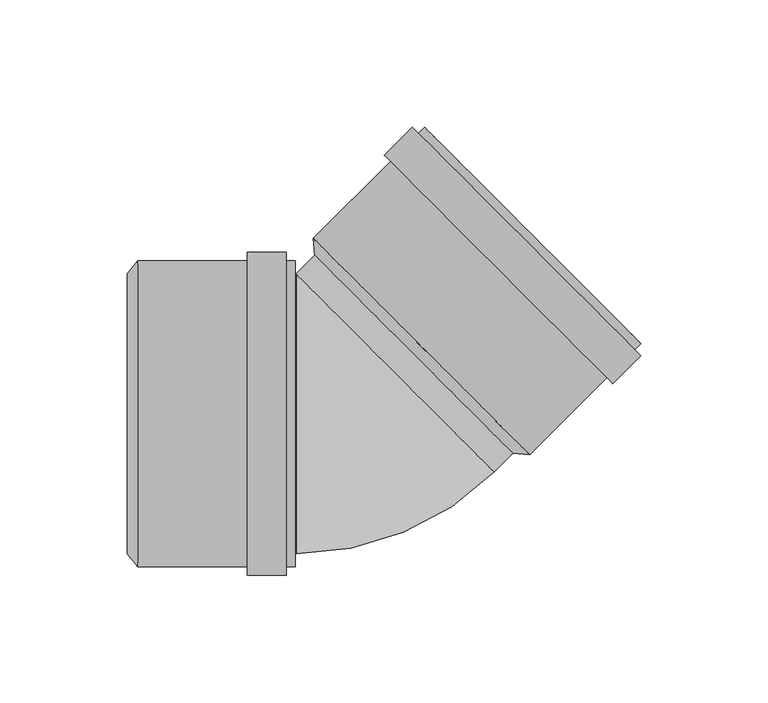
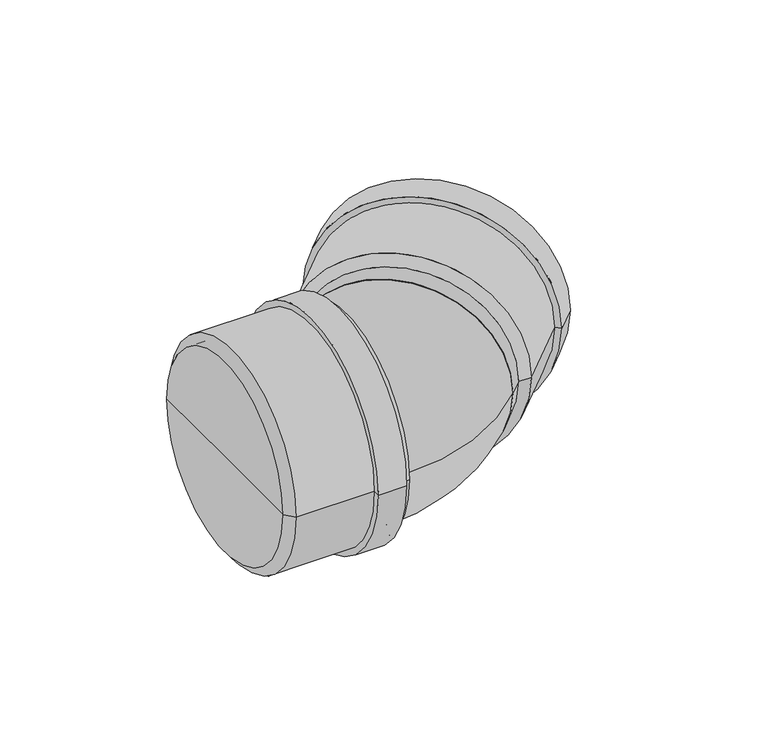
"""IFC4 building model written with IfcOpenShell, lengths in millimetres: pipe fitting geometry, pf_KGB : pf_KGB."""

from ifc_helpers import new_model, si_unit, point, frame, origin, origin_2d, place, context, project, spatial, polyline, circle_curve, ellipse_curve, trimmed, segment, composite_curve, outline, extrude, source, transform, mapped, element, save
from ifc_brep_helpers import plane_surface, cylinder_surface, revolved_surface, advanced_brep


def pipe_fitting_20eff91d(model_context):
    return source(origin(), model_context, "Body", "SolidModel", [
        advanced_brep(
        [(62.3668181, -15.4149278, 0.0), (-15.4149278, 62.3668181, 0.0), (-16.0513239, 68.9429112, 0.0), (68.9429112, -16.0513239, 0.0), (23.4759451, 23.4759451, 0.0), (112.6421102, 27.6478751, 0.0), (27.6478751, 112.6421102, 0.0), (31.2541197, 109.0358657, 0.0), (109.0358657, 31.2541197, 0.0), (25.2437121, 110.2379472, 0.0), (110.2379472, 25.2437121, 0.0), (22.839549, 112.6421102, 0.0), (112.6421102, 22.839549, 0.0), (11.8793939, 101.6819551, 0.0), (101.6819551, 11.8793939, 0.0), (14.283557, 99.2777921, 0.0), (99.2777921, 14.283557, 0.0), (65.3366666, -12.4450793, 0.0), (-12.4450793, 65.3366666, 0.0), (26.4457936, 26.4457936, 0.0)],
        [
            (0, 1, circle_curve(frame((23.4759451, 23.4759451, 0.0), z_axis=(0.7071067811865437, 0.7071067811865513, 0.0), x_axis=(-0.7071067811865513, 0.7071067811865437, 0.0)), 55.0)),
            (1, 2),
            (2, 3, circle_curve(frame((26.4457936, 26.4457936, 0.0), z_axis=(-0.7071067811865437, -0.7071067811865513, 0.0), x_axis=(-0.7071067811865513, 0.7071067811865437, 0.0)), 60.1)),
            (3, 0),
            (1, 0, circle_curve(frame((23.4759451, 23.4759451, 0.0), z_axis=(0.7071067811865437, 0.7071067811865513, 0.0), x_axis=(-0.7071067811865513, 0.7071067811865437, 0.0)), 55.0)),
            (3, 2, circle_curve(frame((26.4457936, 26.4457936, 0.0), z_axis=(-0.7071067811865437, -0.7071067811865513, 0.0), x_axis=(-0.7071067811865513, 0.7071067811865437, 0.0)), 60.1)),
            (4, 1),
            (0, 4),
            (5, 6, circle_curve(frame((70.1449927, 70.1449927, 0.0), z_axis=(0.7071067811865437, 0.7071067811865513, 0.0), x_axis=(-0.7071067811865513, 0.7071067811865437, 0.0)), 60.1)),
            (6, 7),
            (7, 8, circle_curve(frame((70.1449927, 70.1449927, 0.0), z_axis=(-0.7071067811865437, -0.7071067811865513, 0.0), x_axis=(-0.7071067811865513, 0.7071067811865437, 0.0)), 55.0)),
            (8, 5),
            (9, 10, circle_curve(frame((67.7408296, 67.7408296, 0.0), z_axis=(0.7071067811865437, 0.7071067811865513, 0.0), x_axis=(-0.7071067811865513, 0.7071067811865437, 0.0)), 60.1)),
            (10, 5),
            (5, 6, circle_curve(frame((70.1449927, 70.1449927, 0.0), z_axis=(-0.7071067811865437, -0.7071067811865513, 0.0), x_axis=(-0.7071067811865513, 0.7071067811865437, 0.0)), 60.1)),
            (6, 9),
            (11, 12, circle_curve(frame((67.7408296, 67.7408296, 0.0), z_axis=(0.7071067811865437, 0.7071067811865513, 0.0), x_axis=(-0.7071067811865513, 0.7071067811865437, 0.0)), 63.5)),
            (12, 10),
            (9, 11),
            (13, 14, circle_curve(frame((56.7806745, 56.7806745, 0.0), z_axis=(0.7071067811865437, 0.7071067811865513, 0.0), x_axis=(-0.7071067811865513, 0.7071067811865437, 0.0)), 63.5)),
            (14, 12),
            (11, 13),
            (15, 16, circle_curve(frame((56.7806745, 56.7806745, 0.0), z_axis=(0.7071067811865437, 0.7071067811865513, 0.0), x_axis=(-0.7071067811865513, 0.7071067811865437, 0.0)), 60.1)),
            (16, 14),
            (13, 15),
            (8, 7, circle_curve(frame((70.1449927, 70.1449927, 0.0), z_axis=(-0.7071067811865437, -0.7071067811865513, 0.0), x_axis=(-0.7071067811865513, 0.7071067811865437, 0.0)), 55.0)),
            (10, 9, circle_curve(frame((67.7408296, 67.7408296, 0.0), z_axis=(0.7071067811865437, 0.7071067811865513, 0.0), x_axis=(-0.7071067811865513, 0.7071067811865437, 0.0)), 60.1)),
            (12, 11, circle_curve(frame((67.7408296, 67.7408296, 0.0), z_axis=(0.7071067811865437, 0.7071067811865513, 0.0), x_axis=(-0.7071067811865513, 0.7071067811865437, 0.0)), 63.5)),
            (14, 13, circle_curve(frame((56.7806745, 56.7806745, 0.0), z_axis=(0.7071067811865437, 0.7071067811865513, 0.0), x_axis=(-0.7071067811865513, 0.7071067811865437, 0.0)), 63.5)),
            (16, 15, circle_curve(frame((56.7806745, 56.7806745, 0.0), z_axis=(0.7071067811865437, 0.7071067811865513, 0.0), x_axis=(-0.7071067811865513, 0.7071067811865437, 0.0)), 60.1)),
            (2, 15),
            (16, 3),
            (17, 18, circle_curve(frame((26.4457936, 26.4457936, 0.0), z_axis=(0.7071067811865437, 0.7071067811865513, 0.0), x_axis=(-0.7071067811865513, 0.7071067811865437, 0.0)), 55.0)),
            (18, 19),
            (19, 17),
            (18, 17, circle_curve(frame((26.4457936, 26.4457936, 0.0), z_axis=(0.7071067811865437, 0.7071067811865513, 0.0), x_axis=(-0.7071067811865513, 0.7071067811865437, 0.0)), 55.0)),
            (7, 18),
            (17, 8),
        ],
        [
            revolved_surface(polyline([(-16.0513239, 68.9429112, 0.0), (-15.4149278, 62.3668181, 0.0)]), (23.4759451, 23.4759451, 0.0), (-0.7071067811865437, -0.7071067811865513, 0.0)),
            plane_surface(frame((23.4759451, 23.4759451, 0.0), z_axis=(-0.7071067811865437, -0.7071067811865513, 0.0), x_axis=(-0.7071067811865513, 0.7071067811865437, 0.0))),
            plane_surface(frame((70.1449927, 70.1449927, 0.0), z_axis=(0.7071067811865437, 0.7071067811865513, 0.0), x_axis=(-0.7071067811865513, 0.7071067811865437, 0.0))),
            cylinder_surface(frame((23.4759451, 23.4759451, 0.0), z_axis=(-0.7071067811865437, -0.7071067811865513, 0.0), x_axis=(-0.7071067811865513, 0.7071067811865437, 0.0)), 60.1),
            plane_surface(frame((67.7408296, 67.7408296, 0.0), z_axis=(0.7071067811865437, 0.7071067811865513, 0.0), x_axis=(-0.7071067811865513, 0.7071067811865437, 0.0))),
            cylinder_surface(frame((23.4759451, 23.4759451, 0.0), z_axis=(-0.7071067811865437, -0.7071067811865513, 0.0), x_axis=(-0.7071067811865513, 0.7071067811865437, 0.0)), 63.5),
            plane_surface(frame((56.7806745, 56.7806745, 0.0), z_axis=(-0.7071067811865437, -0.7071067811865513, 0.0), x_axis=(-0.7071067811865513, 0.7071067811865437, 0.0))),
            plane_surface(frame((26.4457936, 26.4457936, 0.0), z_axis=(0.7071067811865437, 0.7071067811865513, 0.0), x_axis=(-0.7071067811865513, 0.7071067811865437, 0.0))),
            revolved_surface(polyline([(-12.445079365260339, 65.33666656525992, 0.0), (31.254119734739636, 109.03586566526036, 0.0)]), (23.4759451, 23.4759451, 0.0), (-0.7071067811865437, -0.7071067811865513, 0.0)),
        ],
        [
            (0, [[1, 2, 3, 4]]),
            (0, [[5, -4, 6, -2]]),
            (1, [[7, -1, 8]]),
            (1, [[-8, -5, -7]]),
            (2, [[9, 10, 11, 12]]),
            (3, [[13, 14, 15, 16]]),
            (4, [[17, 18, -13, 19]]),
            (5, [[20, 21, -17, 22]]),
            (6, [[23, 24, -20, 25]]),
            (2, [[-15, -12, 26, -10]]),
            (3, [[27, -16, -9, -14]]),
            (4, [[28, -19, -27, -18]]),
            (5, [[29, -22, -28, -21]]),
            (6, [[30, -25, -29, -24]]),
            (3, [[-3, 31, -30, 32]]),
            (3, [[-6, -32, -23, -31]]),
            (7, [[33, 34, 35]]),
            (7, [[36, -35, -34]]),
            (8, [[-11, 37, -33, 38]]),
            (8, [[-26, -38, -36, -37]]),
        ],
    ),
        advanced_brep(
        [(-89.2, -55.0, 0.0), (-89.2, 55.0, 0.0), (-85.0, 60.1, 0.0), (-85.0, -60.1, 0.0), (-89.2, 0.0, 0.0), (-23.2, -60.1, 0.0), (-23.2, 60.1, 0.0), (-23.2, 55.0, 0.0), (-23.2, -55.0, 0.0), (-26.6, 60.1, 0.0), (-26.6, -60.1, 0.0), (-26.6, 63.5, 0.0), (-26.6, -63.5, 0.0), (-42.1, 63.5, 0.0), (-42.1, -63.5, 0.0), (-42.1, 60.1, 0.0), (-42.1, -60.1, 0.0), (-85.0, -55.0, 0.0), (-85.0, 55.0, 0.0), (-85.0, 0.0, 0.0)],
        [
            (0, 1, circle_curve(frame((-89.2, 0.0, 0.0), z_axis=(1.0, 0.0, 0.0), x_axis=(0.0, 1.0, 0.0)), 55.0)),
            (1, 2),
            (2, 3, circle_curve(frame((-85.0, 0.0, 0.0), z_axis=(-1.0, 0.0, 0.0), x_axis=(0.0, 1.0, 0.0)), 60.1)),
            (3, 0),
            (1, 0, circle_curve(frame((-89.2, 0.0, 0.0), z_axis=(1.0, 0.0, 0.0), x_axis=(0.0, 1.0, 0.0)), 55.0)),
            (3, 2, circle_curve(frame((-85.0, 0.0, 0.0), z_axis=(-1.0, 0.0, 0.0), x_axis=(0.0, 1.0, 0.0)), 60.1)),
            (4, 1),
            (0, 4),
            (5, 6, circle_curve(frame((-23.2, 0.0, 0.0), z_axis=(1.0, 0.0, 0.0), x_axis=(0.0, 1.0, 0.0)), 60.1)),
            (6, 7),
            (7, 8, circle_curve(frame((-23.2, 0.0, 0.0), z_axis=(-1.0, 0.0, 0.0), x_axis=(0.0, 1.0, 0.0)), 55.0)),
            (8, 5),
            (9, 10, circle_curve(frame((-26.6, 0.0, 0.0), z_axis=(1.0, 0.0, 0.0), x_axis=(0.0, 1.0, 0.0)), 60.1)),
            (10, 5),
            (5, 6, circle_curve(frame((-23.2, 0.0, 0.0), z_axis=(-1.0, 0.0, 0.0), x_axis=(0.0, 1.0, 0.0)), 60.1)),
            (6, 9),
            (11, 12, circle_curve(frame((-26.6, 0.0, 0.0), z_axis=(1.0, 0.0, 0.0), x_axis=(0.0, 1.0, 0.0)), 63.5)),
            (12, 10),
            (9, 11),
            (13, 14, circle_curve(frame((-42.1, 0.0, 0.0), z_axis=(1.0, 0.0, 0.0), x_axis=(0.0, 1.0, 0.0)), 63.5)),
            (14, 12),
            (11, 13),
            (15, 16, circle_curve(frame((-42.1, 0.0, 0.0), z_axis=(1.0, 0.0, 0.0), x_axis=(0.0, 1.0, 0.0)), 60.1)),
            (16, 14),
            (13, 15),
            (8, 7, circle_curve(frame((-23.2, 0.0, 0.0), z_axis=(-1.0, 0.0, 0.0), x_axis=(0.0, 1.0, 0.0)), 55.0)),
            (10, 9, circle_curve(frame((-26.6, 0.0, 0.0), z_axis=(1.0, 0.0, 0.0), x_axis=(0.0, 1.0, 0.0)), 60.1)),
            (12, 11, circle_curve(frame((-26.6, 0.0, 0.0), z_axis=(1.0, 0.0, 0.0), x_axis=(0.0, 1.0, 0.0)), 63.5)),
            (14, 13, circle_curve(frame((-42.1, 0.0, 0.0), z_axis=(1.0, 0.0, 0.0), x_axis=(0.0, 1.0, 0.0)), 63.5)),
            (16, 15, circle_curve(frame((-42.1, 0.0, 0.0), z_axis=(1.0, 0.0, 0.0), x_axis=(0.0, 1.0, 0.0)), 60.1)),
            (2, 15),
            (16, 3),
            (17, 18, circle_curve(frame((-85.0, 0.0, 0.0), z_axis=(1.0, 0.0, 0.0), x_axis=(0.0, 1.0, 0.0)), 55.0)),
            (18, 19),
            (19, 17),
            (18, 17, circle_curve(frame((-85.0, 0.0, 0.0), z_axis=(1.0, 0.0, 0.0), x_axis=(0.0, 1.0, 0.0)), 55.0)),
            (7, 18),
            (17, 8),
        ],
        [
            revolved_surface(polyline([(-85.0, 60.1, 0.0), (-89.2, 55.0, 0.0)]), (-89.2, 0.0, 0.0), (-1.0, 0.0, 0.0)),
            plane_surface(frame((-89.2, 0.0, 0.0), z_axis=(-1.0, 0.0, 0.0), x_axis=(0.0, 1.0, 0.0))),
            plane_surface(frame((-23.2, 0.0, 0.0), z_axis=(1.0, 0.0, 0.0), x_axis=(0.0, 1.0, 0.0))),
            cylinder_surface(frame((-89.2, 0.0, 0.0), z_axis=(-1.0, 0.0, 0.0), x_axis=(0.0, 1.0, 0.0)), 60.1),
            plane_surface(frame((-26.6, 0.0, 0.0), z_axis=(1.0, 0.0, 0.0), x_axis=(0.0, 1.0, 0.0))),
            cylinder_surface(frame((-89.2, 0.0, 0.0), z_axis=(-1.0, 0.0, 0.0), x_axis=(0.0, 1.0, 0.0)), 63.5),
            plane_surface(frame((-42.1, 0.0, 0.0), z_axis=(-1.0, 0.0, 0.0), x_axis=(0.0, 1.0, 0.0))),
            plane_surface(frame((-85.0, 0.0, 0.0), z_axis=(1.0, 0.0, 0.0), x_axis=(0.0, 1.0, 0.0))),
            revolved_surface(polyline([(-85.0, 55.0, 0.0), (-23.200000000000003, 55.0, 0.0)]), (-89.2, 0.0, 0.0), (-1.0, 0.0, 0.0)),
        ],
        [
            (0, [[1, 2, 3, 4]]),
            (0, [[5, -4, 6, -2]]),
            (1, [[7, -1, 8]]),
            (1, [[-8, -5, -7]]),
            (2, [[9, 10, 11, 12]]),
            (3, [[13, 14, 15, 16]]),
            (4, [[17, 18, -13, 19]]),
            (5, [[20, 21, -17, 22]]),
            (6, [[23, 24, -20, 25]]),
            (2, [[-15, -12, 26, -10]]),
            (3, [[27, -16, -9, -14]]),
            (4, [[28, -19, -27, -18]]),
            (5, [[29, -22, -28, -21]]),
            (6, [[30, -25, -29, -24]]),
            (3, [[-3, 31, -30, 32]]),
            (3, [[-6, -32, -23, -31]]),
            (7, [[33, 34, 35]]),
            (7, [[36, -35, -34]]),
            (8, [[-11, 37, -33, 38]]),
            (8, [[-26, -38, -36, -37]]),
        ],
    ),
        extrude(outline(composite_curve([segment(trimmed(circle_curve(origin_2d(), 55.0), [point((0.0, -55.0))], [point((0.0, 55.0))], False, "CARTESIAN"), True, "CONTINUOUS"), segment(trimmed(circle_curve(origin_2d(), 55.0), [point((0.0, 55.0))], [point((0.0, -55.0))], False, "CARTESIAN"), True, "CONTINUOUS")], self_intersect=False)), frame((16.109127, 16.109127, 0.0), z_axis=(0.7071067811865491, 0.7071067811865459, 0.0), x_axis=(0.0, 0.0, 1.0)), (0.0, 0.0, 1.0), 10.4182541),
        extrude(outline(composite_curve([segment(trimmed(circle_curve(origin_2d(), 55.0), [point((-55.0, 0.0))], [point((55.0, 0.0))], False, "CARTESIAN"), True, "CONTINUOUS"), segment(trimmed(circle_curve(origin_2d(), 55.0), [point((55.0, 0.0))], [point((-55.0, 0.0))], False, "CARTESIAN"), True, "CONTINUOUS")], self_intersect=False)), frame((-85.0, 0.0, 0.0), z_axis=(1.0, 0.0, 0.0), x_axis=(0.0, 1.0, 0.0)), (0.0, 0.0, 1.0), 62.2182541),
        advanced_brep(
        [(-22.7817459, -55.0, 0.0), (-22.7817459, 55.0, 0.0), (55.0, -22.7817459, 0.0)],
        [
            (0, 1, circle_curve(frame((-22.7817459, 0.0, 0.0), z_axis=(-1.0, 0.0, 0.0), x_axis=(0.0, 1.0, 0.0)), 55.0)),
            (1, 0, circle_curve(frame((-22.7817459, 0.0, 0.0), z_axis=(-1.0, 0.0, 0.0), x_axis=(0.0, 1.0, 0.0)), 55.0)),
            (2, 1, circle_curve(frame((16.109127, 16.109127, 0.0), z_axis=(0.7071067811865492, 0.7071067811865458, 0.0), x_axis=(-0.7071067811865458, 0.7071067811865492, 0.0)), 55.0)),
            (1, 2, circle_curve(frame((16.109127, 16.109127, 0.0), z_axis=(0.7071067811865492, 0.7071067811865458, 0.0), x_axis=(-0.7071067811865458, 0.7071067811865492, 0.0)), 55.0)),
            (2, 0, circle_curve(frame((-22.7817459, 55.0, 0.0), z_axis=(0.0, 0.0, -1.0), x_axis=(0.0, -1.0, 0.0)), 110.0)),
        ],
        [
            plane_surface(frame((-22.7817459, 55.0, -14.8), z_axis=(-1.0, 0.0, 0.0), x_axis=(0.0, -1.0, 0.0))),
            plane_surface(frame((-22.7817459, 55.0, -14.8), z_axis=(0.7071067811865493, 0.7071067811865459, 0.0), x_axis=(0.7071067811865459, -0.7071067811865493, 0.0))),
            revolved_surface(trimmed(ellipse_curve(frame((-22.7817459, 0.0, 0.0), z_axis=(1.0, 0.0, 0.0), x_axis=(0.0, 1.0, 0.0)), 55.0, 55.0), [point((-22.7817459, -55.0, 0.0))], [point((-22.7817459, 55.0, 0.0))], True, "CARTESIAN"), (-22.7817459, 55.0, -14.8), (0.0, 0.0, -1.0)),
            revolved_surface(trimmed(ellipse_curve(frame((-22.7817459, 0.0, 0.0), z_axis=(1.0, 0.0, 0.0), x_axis=(0.0, 1.0, 0.0)), 55.0, 55.0), [point((-22.7817459, 55.0, 0.0))], [point((-22.7817459, -55.0, 0.0))], True, "CARTESIAN"), (-22.7817459, 55.0, -14.8), (0.0, 0.0, -1.0)),
        ],
        [
            (0, [[1, 2]]),
            (1, [[3, 4]]),
            (2, [[5, -2, -3]]),
            (3, [[-1, -5, -4]]),
        ],
    ),
    ])


if __name__ == "__main__":
    model = new_model("IFC4")
    model_context = context("Model", 3, world=origin())
    ifc_project = project(units=[si_unit("LENGTHUNIT", "METRE", prefix="MILLI")], contexts=[model_context])
    site = spatial("IfcSite", under=ifc_project)
    building = spatial("IfcBuilding", under=site)
    placement = place(None, origin())
    pipe_fitting_shape = pipe_fitting_20eff91d(model_context)
    element("IfcPipeFitting", 1, ObjectType="pf_KGB : pf_KGB", at=placement, inside=building, context=model_context, shape_type="MappedRepresentation", body=[
        mapped(pipe_fitting_shape, transform((0.0, 0.0, 0.0), x_axis=(1.0, 0.0, 0.0), y_axis=(0.0, 1.0, 0.0), z_axis=(0.0, 0.0, 1.0))),
    ])
    save(model, "model.ifc")
